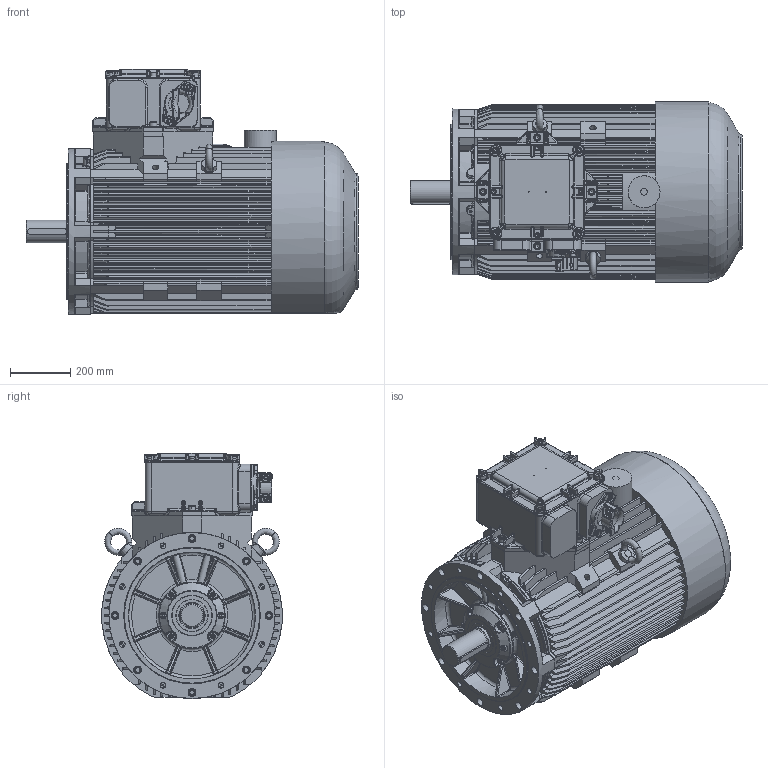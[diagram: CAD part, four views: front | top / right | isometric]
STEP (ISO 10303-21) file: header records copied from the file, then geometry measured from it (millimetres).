
FILE_DESCRIPTION(/* description */ ('Unknown'),/* implementation_level */ '2;1');
FILE_NAME(/* name */ 'EcSTKe280SM4-8-IE2-3',/* time_stamp */ '2021-12-27T12:12:06+01:00',/* author */ ('Unknown'),/* organization */ ('Unknown'),/* preprocessor_version */ 'ST-DEVELOPER v16.7',/* originating_system */ 'DEX',/* authorisation */ $);
FILE_SCHEMA (('AUTOMOTIVE_DESIGN {1 0 10303 214 3 1 1}'));
Products named in the file (1): EcSTKe280SM4-8-IE2-3
Bounding box: 1099.99 x 597.51 x 812 mm (x, y, z)
Volume: 243235974 mm3; surface area: 5088376.4 mm2
Topology: 1 solids, 33 shells, 3313 faces, 8437 edges, 5155 vertices
Faces by surface type: cylinder 1121, plane 1058, bspline 363, torus 348, cone 303, sphere 120
Full cylindrical faces by diameter (mm): 3.2 x2, 4.5 x1, 6 x1, 8.16 x4, 8.376 x6, 8.917 x2, 10 x12, 11 x6, 12 x2, 13.546 x8, 13.835 x2, 16 x28, 17.5 x12, 18 x8, 18.376 x1, 19 x8, 20.752 x2, 22.376 x1, 24 x12, 26 x8, 67 x1, 75 x1, 81.5 x1, 84 x1, 85 x1, 87 x1, 106 x1, 218 x1, 220 x1, 450 x1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
Entity records: 132450 total; most frequent: CARTESIAN_POINT 33415, ORIENTED_EDGE 15862, DIRECTION 15725, EDGE_CURVE 7931, AXIS2_PLACEMENT_3D 6192, VERTEX_POINT 5038, FACE_BOUND 3731, EDGE_LOOP 3710
